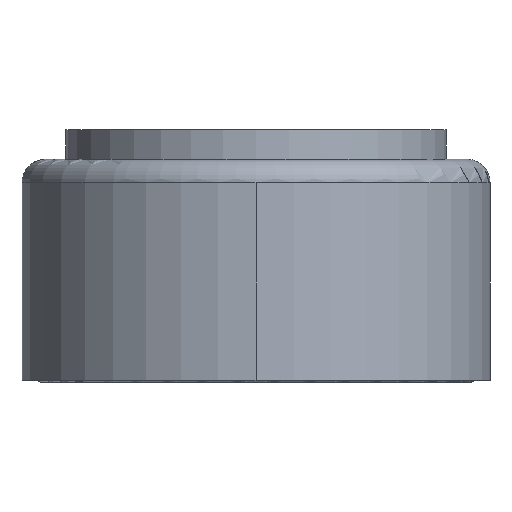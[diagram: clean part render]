
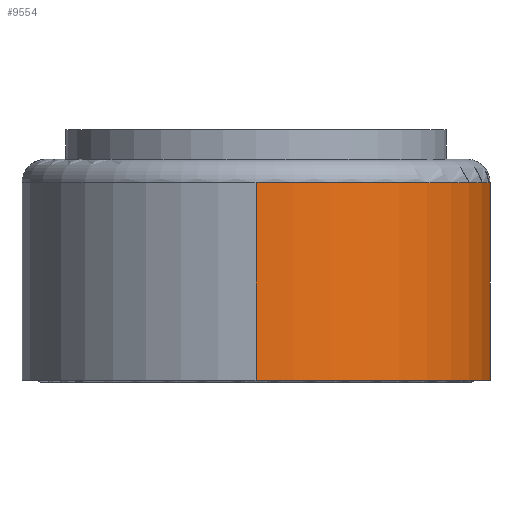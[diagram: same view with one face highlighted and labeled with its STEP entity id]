
A CAD part, left-side view. The second image highlights one B-rep face of the part: STEP entity #9554.
In plain terms, the highlighted cylindrical face has radius 40 mm (diameter 80 mm), a partial arc.
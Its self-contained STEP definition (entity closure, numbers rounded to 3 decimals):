
#427 = VERTEX_POINT ( 'NONE', #1625 ) ;
#1212 = FACE_OUTER_BOUND ( 'NONE', #14950, .T. ) ;
#1559 = AXIS2_PLACEMENT_3D ( 'NONE', #14584, #3212, #21382 ) ;
#1625 = CARTESIAN_POINT ( 'NONE',  ( -40., 0., 33.7 ) ) ;
#1905 = VECTOR ( 'NONE', #7505, 1000. ) ;
#3212 = DIRECTION ( 'NONE',  ( 0., 0., -1. ) ) ;
#5780 = EDGE_CURVE ( 'NONE', #29296, #427, #28191, .T. ) ;
#6178 = ORIENTED_EDGE ( 'NONE', *, *, #5780, .T. ) ;
#6345 = VECTOR ( 'NONE', #10479, 1000. ) ;
#6874 = DIRECTION ( 'NONE',  ( 0., 0., 1. ) ) ;
#7505 = DIRECTION ( 'NONE',  ( 0., 0., -1. ) ) ;
#9554 = ADVANCED_FACE ( 'NONE', ( #1212 ), #24053, .T. ) ;
#10007 = EDGE_CURVE ( 'NONE', #427, #17513, #14019, .T. ) ;
#10479 = DIRECTION ( 'NONE',  ( 0., 0., 1. ) ) ;
#11158 = ORIENTED_EDGE ( 'NONE', *, *, #21904, .T. ) ;
#11718 = ORIENTED_EDGE ( 'NONE', *, *, #10007, .T. ) ;
#11931 = CARTESIAN_POINT ( 'NONE',  ( -40., 0., 0. ) ) ;
#11936 = DIRECTION ( 'NONE',  ( 0., 0., -1. ) ) ;
#11996 = CARTESIAN_POINT ( 'NONE',  ( -40., 0., 37.7 ) ) ;
#12738 = CARTESIAN_POINT ( 'NONE',  ( 21.002, -34.043, 37.7 ) ) ;
#14019 = LINE ( 'NONE', #11996, #1905 ) ;
#14584 = CARTESIAN_POINT ( 'NONE',  ( 0., 0., 37.7 ) ) ;
#14950 = EDGE_LOOP ( 'NONE', ( #6178, #11718, #11158, #22594 ) ) ;
#17513 = VERTEX_POINT ( 'NONE', #11931 ) ;
#18258 = CIRCLE ( 'NONE', #28166, 40. ) ;
#19190 = LINE ( 'NONE', #12738, #6345 ) ;
#20028 = VERTEX_POINT ( 'NONE', #20385 ) ;
#20385 = CARTESIAN_POINT ( 'NONE',  ( 21.002, -34.043, 0. ) ) ;
#20536 = CARTESIAN_POINT ( 'NONE',  ( 0., 0., 0. ) ) ;
#21382 = DIRECTION ( 'NONE',  ( -1., 0., 0. ) ) ;
#21904 = EDGE_CURVE ( 'NONE', #17513, #20028, #18258, .T. ) ;
#22594 = ORIENTED_EDGE ( 'NONE', *, *, #24050, .T. ) ;
#22810 = DIRECTION ( 'NONE',  ( 1., 0., 0. ) ) ;
#24050 = EDGE_CURVE ( 'NONE', #20028, #29296, #19190, .T. ) ;
#24053 = CYLINDRICAL_SURFACE ( 'NONE', #1559, 40. ) ;
#24198 = CARTESIAN_POINT ( 'NONE',  ( 21.002, -34.043, 33.7 ) ) ;
#25267 = AXIS2_PLACEMENT_3D ( 'NONE', #25597, #11936, #27874 ) ;
#25597 = CARTESIAN_POINT ( 'NONE',  ( 0., 0., 33.7 ) ) ;
#27874 = DIRECTION ( 'NONE',  ( 1., 0., 0. ) ) ;
#28166 = AXIS2_PLACEMENT_3D ( 'NONE', #20536, #6874, #22810 ) ;
#28191 = CIRCLE ( 'NONE', #25267, 40. ) ;
#29296 = VERTEX_POINT ( 'NONE', #24198 ) ;
